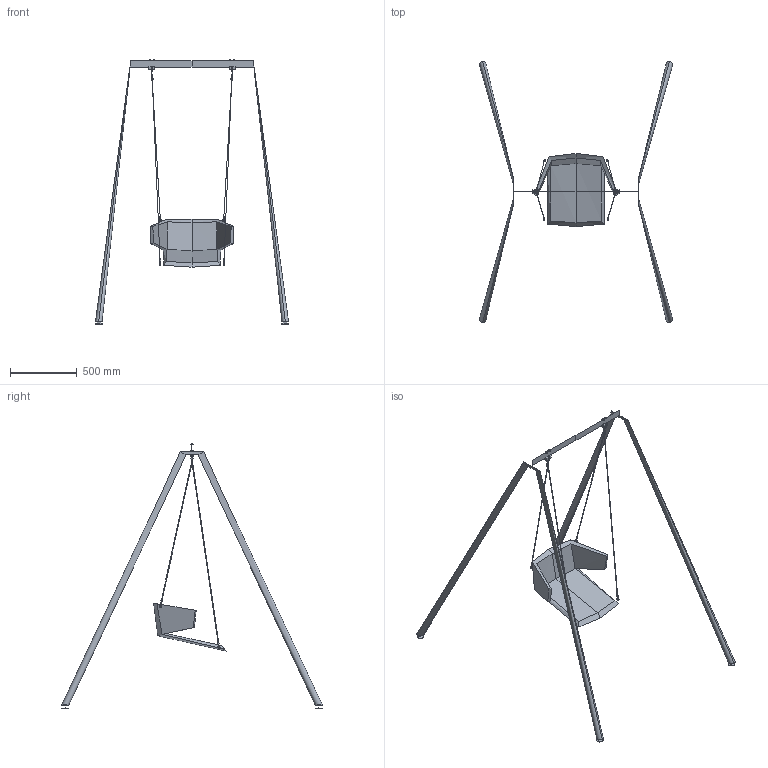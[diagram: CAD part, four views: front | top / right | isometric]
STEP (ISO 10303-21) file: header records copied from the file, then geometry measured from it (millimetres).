
FILE_DESCRIPTION(/* description */ (''),/* implementation_level */ '2;1');
FILE_NAME(/* name */ 'FLEXI FL-SW-N1,FL-SW-P',/* time_stamp */ '2022-07-14T15:45:03+02:00',/* author */ (''),/* organization */ (''),/* preprocessor_version */ 'ST-DEVELOPER v16.5',/* originating_system */ 'Rhino 7.19',/* authorisation */ '');
FILE_SCHEMA (('CONFIG_CONTROL_DESIGN'));
Length unit declared in the file: millimetre
Products named in the file (1): Document
Bounding box: 1450.06 x 1961.24 x 1983.98 mm (x, y, z)
Volume: 35829855.7 mm3; surface area: 2687652.9 mm2
Topology: 27 solids, 37 shells, 398 faces, 813 edges, 474 vertices
Faces by surface type: cylinder 148, plane 140, bspline 110
Entity records: 17877 total; most frequent: CARTESIAN_POINT 12467, ORIENTED_EDGE 1580, EDGE_CURVE 810, VERTEX_POINT 474, EDGE_LOOP 406, ADVANCED_FACE 398, FACE_OUTER_BOUND 398, DIRECTION 299
